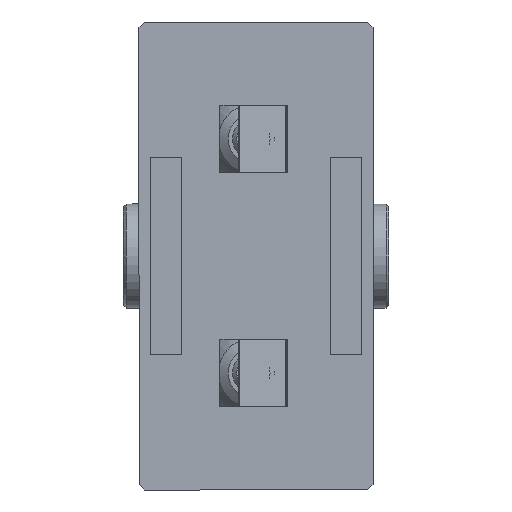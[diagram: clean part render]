
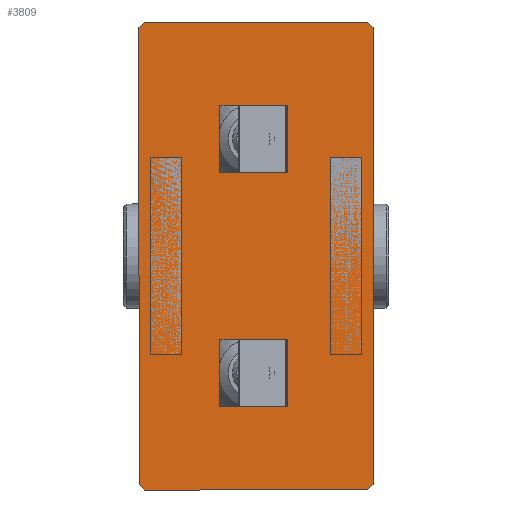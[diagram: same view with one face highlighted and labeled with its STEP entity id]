
A CAD part, front view. The second image highlights one B-rep face of the part: STEP entity #3809.
In plain terms, the highlighted planar face has unit normal (0, -1, 0) as drawn and (0, 0, -1) by its records, which use the part's own axes.
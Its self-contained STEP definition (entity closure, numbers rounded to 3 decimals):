
#2 = ORIENTED_EDGE ( 'NONE', *, *, #2828, .T. ) ;
#9 = CARTESIAN_POINT ( 'NONE',  ( 44., 22., -6. ) ) ;
#27 = AXIS2_PLACEMENT_3D ( 'NONE', #5186, #1186, #4399 ) ;
#101 = CARTESIAN_POINT ( 'NONE',  ( -45., 22., -6. ) ) ;
#222 = VECTOR ( 'NONE', #5227, 1000. ) ;
#295 = CARTESIAN_POINT ( 'NONE',  ( 33., 33., -6. ) ) ;
#324 = EDGE_CURVE ( 'NONE', #4947, #1216, #883, .T. ) ;
#331 = EDGE_CURVE ( 'NONE', #1216, #3388, #825, .T. ) ;
#371 = CARTESIAN_POINT ( 'NONE',  ( -22.5, 4.25, -6. ) ) ;
#517 = CARTESIAN_POINT ( 'NONE',  ( 45., -22., -6. ) ) ;
#551 = CARTESIAN_POINT ( 'NONE',  ( 22.5, 0., -6. ) ) ;
#603 = VERTEX_POINT ( 'NONE', #1611 ) ;
#642 = DIRECTION ( 'NONE',  ( -0.707, -0.707, 0. ) ) ;
#652 = VECTOR ( 'NONE', #3881, 1000. ) ;
#663 = VERTEX_POINT ( 'NONE', #1560 ) ;
#694 = CIRCLE ( 'NONE', #27, 4.25 ) ;
#717 = DIRECTION ( 'NONE',  ( 0.707, -0.707, 0. ) ) ;
#740 = ORIENTED_EDGE ( 'NONE', *, *, #2369, .T. ) ;
#825 = LINE ( 'NONE', #3487, #2963 ) ;
#883 = LINE ( 'NONE', #1028, #1770 ) ;
#892 = VECTOR ( 'NONE', #1292, 1000. ) ;
#912 = FACE_BOUND ( 'NONE', #5118, .T. ) ;
#933 = CARTESIAN_POINT ( 'NONE',  ( 44., -23., -6. ) ) ;
#953 = VERTEX_POINT ( 'NONE', #9 ) ;
#965 = DIRECTION ( 'NONE',  ( 0., 0., -1. ) ) ;
#973 = AXIS2_PLACEMENT_3D ( 'NONE', #551, #3014, #4637 ) ;
#978 = EDGE_CURVE ( 'NONE', #663, #1289, #4021, .T. ) ;
#1015 = VERTEX_POINT ( 'NONE', #3697 ) ;
#1028 = CARTESIAN_POINT ( 'NONE',  ( 33.5, -33.5, -6. ) ) ;
#1186 = DIRECTION ( 'NONE',  ( 0., 0., -1. ) ) ;
#1198 = ORIENTED_EDGE ( 'NONE', *, *, #978, .T. ) ;
#1208 = VERTEX_POINT ( 'NONE', #3359 ) ;
#1216 = VERTEX_POINT ( 'NONE', #933 ) ;
#1222 = AXIS2_PLACEMENT_3D ( 'NONE', #2165, #5029, #2610 ) ;
#1240 = CARTESIAN_POINT ( 'NONE',  ( -22.5, -4.25, -6. ) ) ;
#1289 = VERTEX_POINT ( 'NONE', #1390 ) ;
#1292 = DIRECTION ( 'NONE',  ( 1., 0., 0. ) ) ;
#1390 = CARTESIAN_POINT ( 'NONE',  ( -45., 21., -6. ) ) ;
#1416 = CARTESIAN_POINT ( 'NONE',  ( 22.5, 0., -6. ) ) ;
#1560 = CARTESIAN_POINT ( 'NONE',  ( -45., -22., -6. ) ) ;
#1593 = LINE ( 'NONE', #4268, #652 ) ;
#1611 = CARTESIAN_POINT ( 'NONE',  ( 22.5, 4.25, -6. ) ) ;
#1659 = CARTESIAN_POINT ( 'NONE',  ( -45., -23., -6. ) ) ;
#1760 = ORIENTED_EDGE ( 'NONE', *, *, #324, .T. ) ;
#1770 = VECTOR ( 'NONE', #642, 1000. ) ;
#1828 = ORIENTED_EDGE ( 'NONE', *, *, #4692, .F. ) ;
#1829 = VERTEX_POINT ( 'NONE', #2810 ) ;
#2111 = CIRCLE ( 'NONE', #2595, 4.25 ) ;
#2120 = DIRECTION ( 'NONE',  ( -0.707, 0.707, 0. ) ) ;
#2165 = CARTESIAN_POINT ( 'NONE',  ( 0., 0., -6. ) ) ;
#2166 = VECTOR ( 'NONE', #2120, 1000. ) ;
#2217 = ORIENTED_EDGE ( 'NONE', *, *, #3206, .F. ) ;
#2369 = EDGE_CURVE ( 'NONE', #953, #1829, #3395, .T. ) ;
#2378 = VERTEX_POINT ( 'NONE', #371 ) ;
#2434 = EDGE_CURVE ( 'NONE', #1289, #1208, #3971, .T. ) ;
#2583 = DIRECTION ( 'NONE',  ( 0., 1., 0. ) ) ;
#2593 = EDGE_LOOP ( 'NONE', ( #4417, #740, #3342, #1760, #3874, #2, #1198, #4627 ) ) ;
#2595 = AXIS2_PLACEMENT_3D ( 'NONE', #1416, #3011, #3788 ) ;
#2610 = DIRECTION ( 'NONE',  ( -1., 0., 0. ) ) ;
#2755 = EDGE_LOOP ( 'NONE', ( #2217, #3962 ) ) ;
#2761 = VECTOR ( 'NONE', #4393, 1000. ) ;
#2810 = CARTESIAN_POINT ( 'NONE',  ( 45., 21., -6. ) ) ;
#2828 = EDGE_CURVE ( 'NONE', #3388, #663, #3873, .T. ) ;
#2902 = EDGE_CURVE ( 'NONE', #1015, #603, #5145, .T. ) ;
#2963 = VECTOR ( 'NONE', #5200, 1000. ) ;
#3011 = DIRECTION ( 'NONE',  ( 0., 0., -1. ) ) ;
#3014 = DIRECTION ( 'NONE',  ( 0., 0., -1. ) ) ;
#3050 = FACE_OUTER_BOUND ( 'NONE', #2593, .T. ) ;
#3206 = EDGE_CURVE ( 'NONE', #603, #1015, #2111, .T. ) ;
#3220 = ORIENTED_EDGE ( 'NONE', *, *, #3844, .F. ) ;
#3342 = ORIENTED_EDGE ( 'NONE', *, *, #3514, .T. ) ;
#3359 = CARTESIAN_POINT ( 'NONE',  ( -44., 22., -6. ) ) ;
#3388 = VERTEX_POINT ( 'NONE', #4996 ) ;
#3395 = LINE ( 'NONE', #295, #3534 ) ;
#3474 = LINE ( 'NONE', #101, #892 ) ;
#3487 = CARTESIAN_POINT ( 'NONE',  ( 45., -23., -6. ) ) ;
#3514 = EDGE_CURVE ( 'NONE', #1829, #4947, #1593, .T. ) ;
#3534 = VECTOR ( 'NONE', #717, 1000. ) ;
#3697 = CARTESIAN_POINT ( 'NONE',  ( 22.5, -4.25, -6. ) ) ;
#3788 = DIRECTION ( 'NONE',  ( 0., 1., 0. ) ) ;
#3809 = ADVANCED_FACE ( 'NONE', ( #3810, #912, #3050 ), #4574, .T. ) ;
#3810 = FACE_BOUND ( 'NONE', #2755, .T. ) ;
#3844 = EDGE_CURVE ( 'NONE', #2378, #4785, #4503, .T. ) ;
#3873 = LINE ( 'NONE', #4893, #2166 ) ;
#3874 = ORIENTED_EDGE ( 'NONE', *, *, #331, .T. ) ;
#3881 = DIRECTION ( 'NONE',  ( 0., -1., 0. ) ) ;
#3949 = AXIS2_PLACEMENT_3D ( 'NONE', #4611, #965, #2583 ) ;
#3951 = CARTESIAN_POINT ( 'NONE',  ( -33., 33., -6. ) ) ;
#3962 = ORIENTED_EDGE ( 'NONE', *, *, #2902, .F. ) ;
#3971 = LINE ( 'NONE', #3951, #2761 ) ;
#4021 = LINE ( 'NONE', #1659, #222 ) ;
#4268 = CARTESIAN_POINT ( 'NONE',  ( 45., 22., -6. ) ) ;
#4393 = DIRECTION ( 'NONE',  ( 0.707, 0.707, 0. ) ) ;
#4399 = DIRECTION ( 'NONE',  ( 0., 1., 0. ) ) ;
#4417 = ORIENTED_EDGE ( 'NONE', *, *, #4932, .T. ) ;
#4503 = CIRCLE ( 'NONE', #3949, 4.25 ) ;
#4574 = PLANE ( 'NONE',  #1222 ) ;
#4611 = CARTESIAN_POINT ( 'NONE',  ( -22.5, 0., -6. ) ) ;
#4627 = ORIENTED_EDGE ( 'NONE', *, *, #2434, .T. ) ;
#4637 = DIRECTION ( 'NONE',  ( 0., 1., 0. ) ) ;
#4692 = EDGE_CURVE ( 'NONE', #4785, #2378, #694, .T. ) ;
#4785 = VERTEX_POINT ( 'NONE', #1240 ) ;
#4893 = CARTESIAN_POINT ( 'NONE',  ( -33.5, -33.5, -6. ) ) ;
#4932 = EDGE_CURVE ( 'NONE', #1208, #953, #3474, .T. ) ;
#4947 = VERTEX_POINT ( 'NONE', #517 ) ;
#4996 = CARTESIAN_POINT ( 'NONE',  ( -44., -23., -6. ) ) ;
#5029 = DIRECTION ( 'NONE',  ( 0., 0., -1. ) ) ;
#5118 = EDGE_LOOP ( 'NONE', ( #3220, #1828 ) ) ;
#5145 = CIRCLE ( 'NONE', #973, 4.25 ) ;
#5186 = CARTESIAN_POINT ( 'NONE',  ( -22.5, 0., -6. ) ) ;
#5200 = DIRECTION ( 'NONE',  ( -1., 0., 0. ) ) ;
#5227 = DIRECTION ( 'NONE',  ( 0., 1., 0. ) ) ;
